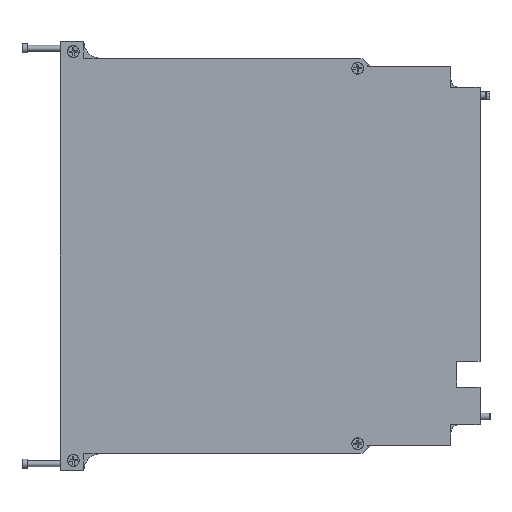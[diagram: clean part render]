
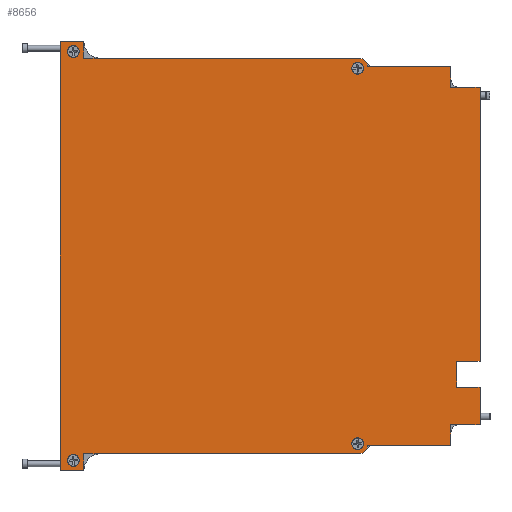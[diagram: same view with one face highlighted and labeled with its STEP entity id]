
A CAD part, front view. The second image highlights one B-rep face of the part: STEP entity #8656.
In plain terms, the highlighted planar face has unit normal (0, -1, 0).
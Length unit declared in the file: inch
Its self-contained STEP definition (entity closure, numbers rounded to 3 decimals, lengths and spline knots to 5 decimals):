
#617=LINE($,#13631,#1387);
#619=LINE($,#13635,#1389);
#620=LINE($,#13638,#1390);
#623=LINE($,#13643,#1393);
#625=LINE($,#13648,#1395);
#627=LINE($,#13652,#1397);
#630=LINE($,#13657,#1400);
#631=LINE($,#13660,#1401);
#634=LINE($,#13689,#1404);
#636=LINE($,#13693,#1406);
#637=LINE($,#13695,#1407);
#639=LINE($,#13699,#1409);
#641=LINE($,#13703,#1411);
#643=LINE($,#13707,#1413);
#645=LINE($,#13711,#1415);
#647=LINE($,#13715,#1417);
#648=LINE($,#13717,#1418);
#649=LINE($,#13719,#1419);
#1387=VECTOR($,#11122,4.1355);
#1389=VECTOR($,#11126,1.25);
#1390=VECTOR($,#11129,1.25);
#1393=VECTOR($,#11134,0.31154);
#1395=VECTOR($,#11138,0.387);
#1397=VECTOR($,#11142,0.35);
#1400=VECTOR($,#11147,0.35);
#1401=VECTOR($,#11150,0.56346);
#1404=VECTOR($,#11187,4.11646);
#1406=VECTOR($,#11191,0.4375);
#1407=VECTOR($,#11194,0.31154);
#1409=VECTOR($,#11198,0.25);
#1411=VECTOR($,#11202,0.36);
#1413=VECTOR($,#11206,6.44);
#1415=VECTOR($,#11210,0.36);
#1417=VECTOR($,#11214,0.25);
#1418=VECTOR($,#11217,4.1355);
#1419=VECTOR($,#11220,0.4375);
#1967=PLANE($,#9369);
#2208=FACE_BOUND($,#3279,.T.);
#2209=FACE_BOUND($,#3280,.T.);
#2210=FACE_BOUND($,#3281,.T.);
#2211=FACE_BOUND($,#3282,.T.);
#2673=FACE_OUTER_BOUND($,#3278,.T.);
#3278=EDGE_LOOP($,(#7009,#7010,#7011,#7012,#7013,#7014,#7015,#7016,#7017,
#7018,#7019,#7020,#7021,#7022,#7023,#7024,#7025,#7026,#7027,#7028));
#3279=EDGE_LOOP($,(#7029));
#3280=EDGE_LOOP($,(#7030));
#3281=EDGE_LOOP($,(#7031));
#3282=EDGE_LOOP($,(#7032));
#3603=CIRCLE($,#9325,0.125);
#3610=CIRCLE($,#9334,0.125);
#3611=CIRCLE($,#9344,0.09);
#3613=CIRCLE($,#9348,0.09);
#3615=CIRCLE($,#9352,0.09);
#3617=CIRCLE($,#9356,0.09);
#4129=VERTEX_POINT($,#13568);
#4130=VERTEX_POINT($,#13569);
#4155=VERTEX_POINT($,#13623);
#4156=VERTEX_POINT($,#13625);
#4157=VERTEX_POINT($,#13629);
#4158=VERTEX_POINT($,#13633);
#4159=VERTEX_POINT($,#13637);
#4160=VERTEX_POINT($,#13641);
#4161=VERTEX_POINT($,#13645);
#4162=VERTEX_POINT($,#13647);
#4163=VERTEX_POINT($,#13651);
#4164=VERTEX_POINT($,#13655);
#4165=VERTEX_POINT($,#13659);
#4166=VERTEX_POINT($,#13663);
#4168=VERTEX_POINT($,#13669);
#4170=VERTEX_POINT($,#13675);
#4172=VERTEX_POINT($,#13681);
#4174=VERTEX_POINT($,#13687);
#4175=VERTEX_POINT($,#13691);
#4176=VERTEX_POINT($,#13697);
#4177=VERTEX_POINT($,#13701);
#4178=VERTEX_POINT($,#13705);
#4179=VERTEX_POINT($,#13709);
#4180=VERTEX_POINT($,#13713);
#5099=EDGE_CURVE($,#4129,#4130,#3603,.T.);
#5127=EDGE_CURVE($,#4155,#4156,#3610,.T.);
#5130=EDGE_CURVE($,#4155,#4157,#617,.T.);
#5132=EDGE_CURVE($,#4129,#4158,#619,.T.);
#5133=EDGE_CURVE($,#4159,#4156,#620,.T.);
#5136=EDGE_CURVE($,#4158,#4160,#623,.T.);
#5138=EDGE_CURVE($,#4162,#4161,#625,.T.);
#5140=EDGE_CURVE($,#4163,#4162,#627,.T.);
#5143=EDGE_CURVE($,#4161,#4164,#630,.T.);
#5144=EDGE_CURVE($,#4165,#4163,#631,.T.);
#5146=EDGE_CURVE($,#4166,#4166,#3611,.T.);
#5148=EDGE_CURVE($,#4168,#4168,#3613,.T.);
#5150=EDGE_CURVE($,#4170,#4170,#3615,.T.);
#5152=EDGE_CURVE($,#4172,#4172,#3617,.T.);
#5155=EDGE_CURVE($,#4164,#4174,#634,.T.);
#5157=EDGE_CURVE($,#4174,#4175,#636,.T.);
#5158=EDGE_CURVE($,#4175,#4159,#637,.T.);
#5160=EDGE_CURVE($,#4157,#4176,#639,.T.);
#5162=EDGE_CURVE($,#4176,#4177,#641,.T.);
#5164=EDGE_CURVE($,#4177,#4178,#643,.T.);
#5166=EDGE_CURVE($,#4178,#4179,#645,.T.);
#5168=EDGE_CURVE($,#4179,#4180,#647,.T.);
#5169=EDGE_CURVE($,#4180,#4130,#648,.T.);
#5170=EDGE_CURVE($,#4160,#4165,#649,.T.);
#7009=ORIENTED_EDGE($,*,*,#5099,.F.);
#7010=ORIENTED_EDGE($,*,*,#5132,.T.);
#7011=ORIENTED_EDGE($,*,*,#5136,.T.);
#7012=ORIENTED_EDGE($,*,*,#5170,.T.);
#7013=ORIENTED_EDGE($,*,*,#5144,.T.);
#7014=ORIENTED_EDGE($,*,*,#5140,.T.);
#7015=ORIENTED_EDGE($,*,*,#5138,.T.);
#7016=ORIENTED_EDGE($,*,*,#5143,.T.);
#7017=ORIENTED_EDGE($,*,*,#5155,.T.);
#7018=ORIENTED_EDGE($,*,*,#5157,.T.);
#7019=ORIENTED_EDGE($,*,*,#5158,.T.);
#7020=ORIENTED_EDGE($,*,*,#5133,.T.);
#7021=ORIENTED_EDGE($,*,*,#5127,.F.);
#7022=ORIENTED_EDGE($,*,*,#5130,.T.);
#7023=ORIENTED_EDGE($,*,*,#5160,.T.);
#7024=ORIENTED_EDGE($,*,*,#5162,.T.);
#7025=ORIENTED_EDGE($,*,*,#5164,.T.);
#7026=ORIENTED_EDGE($,*,*,#5166,.T.);
#7027=ORIENTED_EDGE($,*,*,#5168,.T.);
#7028=ORIENTED_EDGE($,*,*,#5169,.T.);
#7029=ORIENTED_EDGE($,*,*,#5146,.T.);
#7030=ORIENTED_EDGE($,*,*,#5148,.T.);
#7031=ORIENTED_EDGE($,*,*,#5150,.T.);
#7032=ORIENTED_EDGE($,*,*,#5152,.T.);
#8656=ADVANCED_FACE($,(#2673,#2208,#2209,#2210,#2211),#1967,.F.);
#9325=AXIS2_PLACEMENT_3D($,#13570,#11077,#11078);
#9334=AXIS2_PLACEMENT_3D($,#13626,#11116,#11117);
#9344=AXIS2_PLACEMENT_3D($,#13664,#11154,#11155);
#9348=AXIS2_PLACEMENT_3D($,#13670,#11162,#11163);
#9352=AXIS2_PLACEMENT_3D($,#13676,#11170,#11171);
#9356=AXIS2_PLACEMENT_3D($,#13682,#11178,#11179);
#9369=AXIS2_PLACEMENT_3D($,#13720,#11221,#11222);
#11077=DIRECTION('center_axis',(0.,1.,0.));
#11078=DIRECTION('ref_axis',(0.707,0.,-0.707));
#11116=DIRECTION('center_axis',(0.,1.,0.));
#11117=DIRECTION('ref_axis',(0.707,0.,0.707));
#11122=DIRECTION($,(-1.,0.,0.));
#11126=DIRECTION($,(1.,0.,0.));
#11129=DIRECTION($,(-1.,0.,0.));
#11134=DIRECTION($,(0.,0.,1.));
#11138=DIRECTION($,(0.,0.,1.));
#11142=DIRECTION($,(-1.,0.,0.));
#11147=DIRECTION($,(1.,0.,0.));
#11150=DIRECTION($,(0.,0.,1.));
#11154=DIRECTION('center_axis',(0.,1.,0.));
#11155=DIRECTION('ref_axis',(-1.,0.,0.));
#11162=DIRECTION('center_axis',(0.,1.,0.));
#11163=DIRECTION('ref_axis',(-1.,0.,0.));
#11170=DIRECTION('center_axis',(0.,1.,0.));
#11171=DIRECTION('ref_axis',(-1.,0.,0.));
#11178=DIRECTION('center_axis',(0.,1.,0.));
#11179=DIRECTION('ref_axis',(-1.,0.,0.));
#11187=DIRECTION($,(0.,0.,1.));
#11191=DIRECTION($,(-1.,0.,0.));
#11194=DIRECTION($,(0.,0.,1.));
#11198=DIRECTION($,(0.,0.,1.));
#11202=DIRECTION($,(-1.,0.,0.));
#11206=DIRECTION($,(0.,0.,-1.));
#11210=DIRECTION($,(1.,0.,0.));
#11214=DIRECTION($,(0.,0.,1.));
#11217=DIRECTION($,(1.,0.,0.));
#11220=DIRECTION($,(1.,0.,0.));
#11221=DIRECTION('center_axis',(0.,1.,0.));
#11222=DIRECTION('ref_axis',(-1.,0.,0.));
#13568=CARTESIAN_POINT('',(4.6205,0.,0.125));
#13569=CARTESIAN_POINT('',(4.4955,0.,0.));
#13570=CARTESIAN_POINT('Origin',(4.4955,0.,
0.125));
#13623=CARTESIAN_POINT('',(4.4955,0.,5.94));
#13625=CARTESIAN_POINT('',(4.6205,0.,5.815));
#13626=CARTESIAN_POINT('Origin',(4.4955,0.,
5.815));
#13629=CARTESIAN_POINT('',(0.36,0.,5.94));
#13631=CARTESIAN_POINT($,(5.8705,0.,5.94));
#13633=CARTESIAN_POINT('',(5.8705,0.,0.125));
#13635=CARTESIAN_POINT($,(4.44644,0.,0.125));
#13637=CARTESIAN_POINT('',(5.8705,0.,5.815));
#13638=CARTESIAN_POINT($,(3.82144,0.,5.815));
#13641=CARTESIAN_POINT('',(5.8705,0.,0.43654));
#13643=CARTESIAN_POINT($,(5.8705,0.,0.));
#13645=CARTESIAN_POINT('',(5.958,0.,1.387));
#13647=CARTESIAN_POINT('',(5.958,0.,1.));
#13648=CARTESIAN_POINT($,(5.958,0.,2.1785));
#13651=CARTESIAN_POINT('',(6.308,0.,1.));
#13652=CARTESIAN_POINT($,(4.49019,0.,1.));
#13655=CARTESIAN_POINT('',(6.308,0.,1.387));
#13657=CARTESIAN_POINT($,(4.66519,0.,1.387));
#13659=CARTESIAN_POINT('',(6.308,0.,0.43654));
#13660=CARTESIAN_POINT($,(6.308,0.,0.43654));
#13663=CARTESIAN_POINT('',(4.3805,0.,0.15));
#13664=CARTESIAN_POINT('Origin',(4.4705,0.,
0.15));
#13669=CARTESIAN_POINT('',(0.11,0.,-0.1));
#13670=CARTESIAN_POINT('Origin',(0.2,0.,
-0.1));
#13675=CARTESIAN_POINT('',(0.11,0.,6.04));
#13676=CARTESIAN_POINT('Origin',(0.2,0.,
6.04));
#13681=CARTESIAN_POINT('',(4.3805,0.,5.79));
#13682=CARTESIAN_POINT('Origin',(4.4705,0.,
5.79));
#13687=CARTESIAN_POINT('',(6.308,0.,5.50346));
#13689=CARTESIAN_POINT($,(6.308,0.,0.43654));
#13691=CARTESIAN_POINT('',(5.8705,0.,5.50346));
#13693=CARTESIAN_POINT($,(6.308,0.,5.50346));
#13695=CARTESIAN_POINT($,(5.8705,0.,5.50346));
#13697=CARTESIAN_POINT('',(0.36,0.,6.19));
#13699=CARTESIAN_POINT($,(0.36,0.,5.94));
#13701=CARTESIAN_POINT('',(0.,0.,
6.19));
#13703=CARTESIAN_POINT($,(0.36,0.,6.19));
#13705=CARTESIAN_POINT('',(0.,0.,
-0.25));
#13707=CARTESIAN_POINT($,(0.,0.,6.19));
#13709=CARTESIAN_POINT('',(0.36,0.,-0.25));
#13711=CARTESIAN_POINT($,(0.,0.,-0.25));
#13713=CARTESIAN_POINT('',(0.36,0.,0.));
#13715=CARTESIAN_POINT($,(0.36,0.,-0.25));
#13717=CARTESIAN_POINT($,(0.36,0.,0.));
#13719=CARTESIAN_POINT($,(5.8705,0.,0.43654));
#13720=CARTESIAN_POINT('Origin',(3.02237,0.,
2.97));
